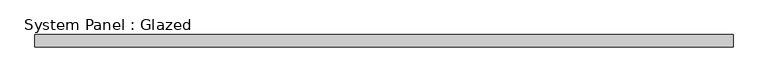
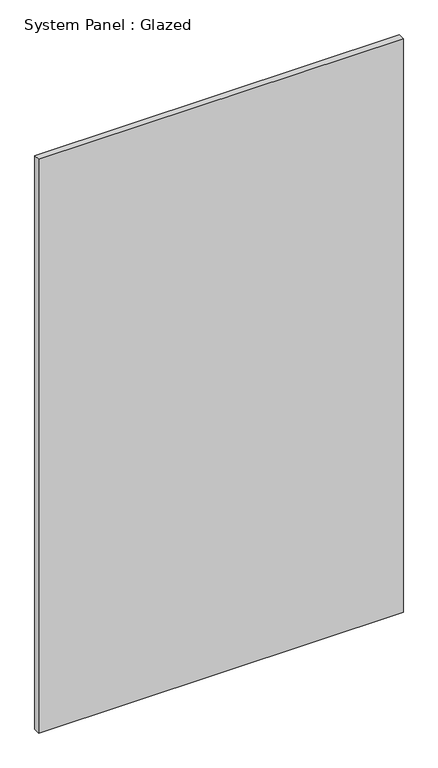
"""IFC4 building model written with IfcOpenShell, lengths in millimetres: plate geometry, System Panel : Glazed."""

from ifc_helpers import new_model, si_unit, origin, origin_with_axes, place, context, project, spatial, polyline, outline, extrude, source, transform, mapped, element, save


def system_panel_glazed_36605c35(model_context):
    return source(origin(), model_context, "Body", "SweptSolid", [
        extrude(outline(polyline([(714.4773927, 19.05), (-714.4773927, 19.05), (-714.4773927, 44.45), (714.4773927, 44.45), (714.4773927, 19.05)])), origin_with_axes(), (0.0, 0.0, 1.0), 2374.9),
    ])


if __name__ == "__main__":
    model = new_model("IFC4")
    model_context = context("Model", 3, world=origin())
    ifc_project = project(units=[si_unit("LENGTHUNIT", "METRE", prefix="MILLI")], contexts=[model_context])
    site = spatial("IfcSite", under=ifc_project)
    building = spatial("IfcBuilding", under=site)
    placement = place(None, origin())
    system_panel_glazed_shape = system_panel_glazed_36605c35(model_context)
    element("IfcPlate", 1, ObjectType="System Panel : Glazed", at=placement, inside=building, context=model_context, shape_type="MappedRepresentation", body=[
        mapped(system_panel_glazed_shape, transform((0.0, 0.0, 0.0), x_axis=(1.0, 0.0, 0.0), y_axis=(0.0, 1.0, 0.0), z_axis=(0.0, 0.0, 1.0))),
    ])
    save(model, "model.ifc")
